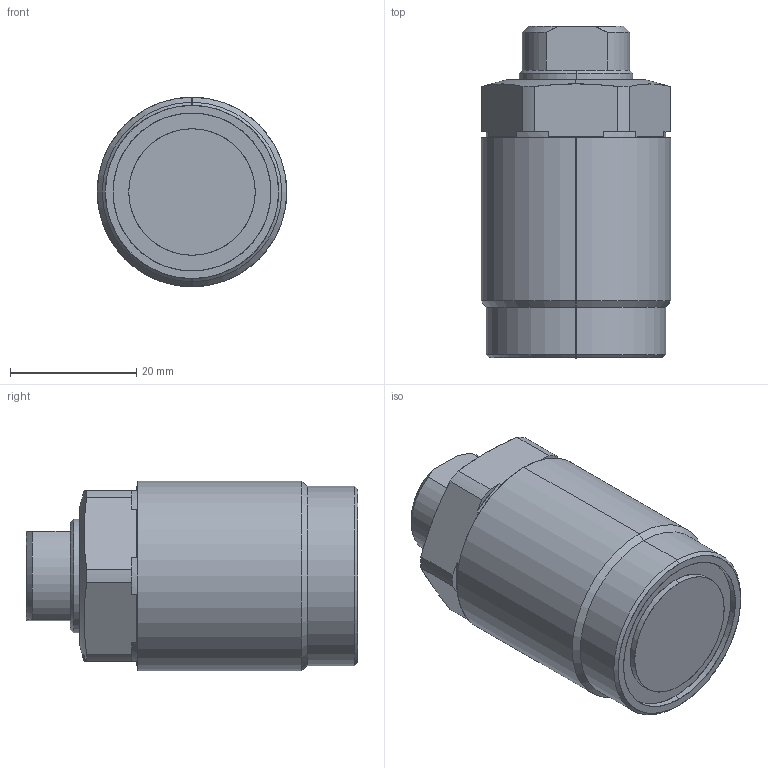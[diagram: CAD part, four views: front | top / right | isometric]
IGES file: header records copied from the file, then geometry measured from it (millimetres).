
Start section: SolidWorks IGES file using analytic representation for surfaces
Global section: file name: D:\karuppas\Clasp\3D model\Thread body cylinder\T03C-M303-M threaded pusher\T03C-M303-M threaded pusher.IGS; native system: SolidWorks 2017; preprocessor: SolidWorks 2017; author: pc; date: 220709.230912; units: millimetre
Bounding box: 30 x 52.5 x 30 mm (x, y, z)
Surface area: 8756.7 mm2 (no closed solid volume)
Topology: 0 solids, 0 shells, 264 faces, 3227 edges, 3225 vertices
Faces by surface type: bspline 228, revolution 36
